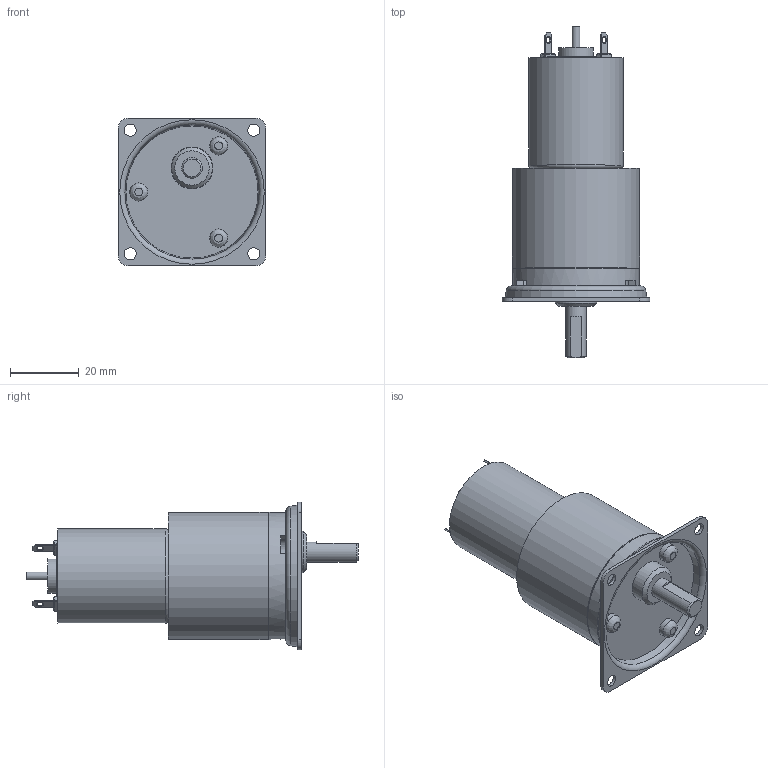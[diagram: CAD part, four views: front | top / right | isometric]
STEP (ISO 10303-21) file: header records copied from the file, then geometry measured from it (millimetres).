
FILE_DESCRIPTION((''),'2;1');
FILE_NAME('C:\Documents and Settings\SSEGAWA\デスクトップ\TP-2732D-PKS-6.STP','2013-07-01T14:20:23',('SSEGAWA'),(''),'Autodesk Inventor 2010','Autodesk Inventor 2010','');
FILE_SCHEMA(('CONFIG_CONTROL_DESIGN'));
Length unit declared in the file: millimetre
Products named in the file (5): tp_2732def_pks_6; pks_6; ks_6; □43; tp_2732d,e,f
Assembly tree (4 placements, depth 3):
  tp_2732def_pks_6
    pks_6
      ks_6
      □43
    tp_2732d,e,f
Bounding box: 43 x 96.7 x 43 mm (x, y, z)
Volume: 59299.4 mm3; surface area: 16090.6 mm2
Topology: 4 solids, 4 shells, 192 faces, 432 edges, 278 vertices
Faces by surface type: plane 106, cylinder 44, bspline 32, torus 6, cone 4
Full cylindrical faces by diameter (mm): 2 x2, 2.305 x2, 2.5 x5, 5.3 x3, 6 x1, 9 x2, 10 x2, 12 x1, 12.2 x1, 19 x1, 26.7 x1, 27.7 x1, 36.6 x1, 37 x2
Entity records: 5411 total; most frequent: CARTESIAN_POINT 1337, DIRECTION 831, ORIENTED_EDGE 702, EDGE_CURVE 351, AXIS2_PLACEMENT_3D 313, EDGE_LOOP 293, VERTEX_POINT 254, VECTOR 205
